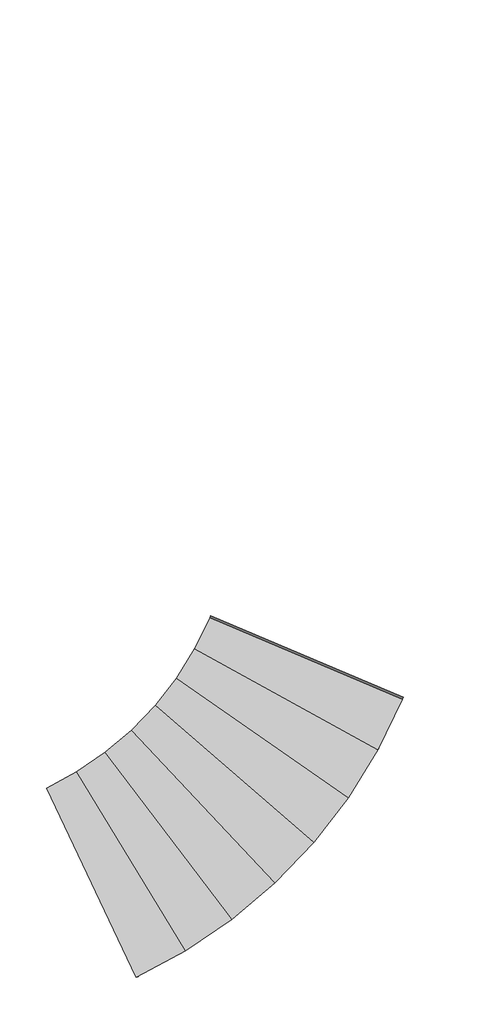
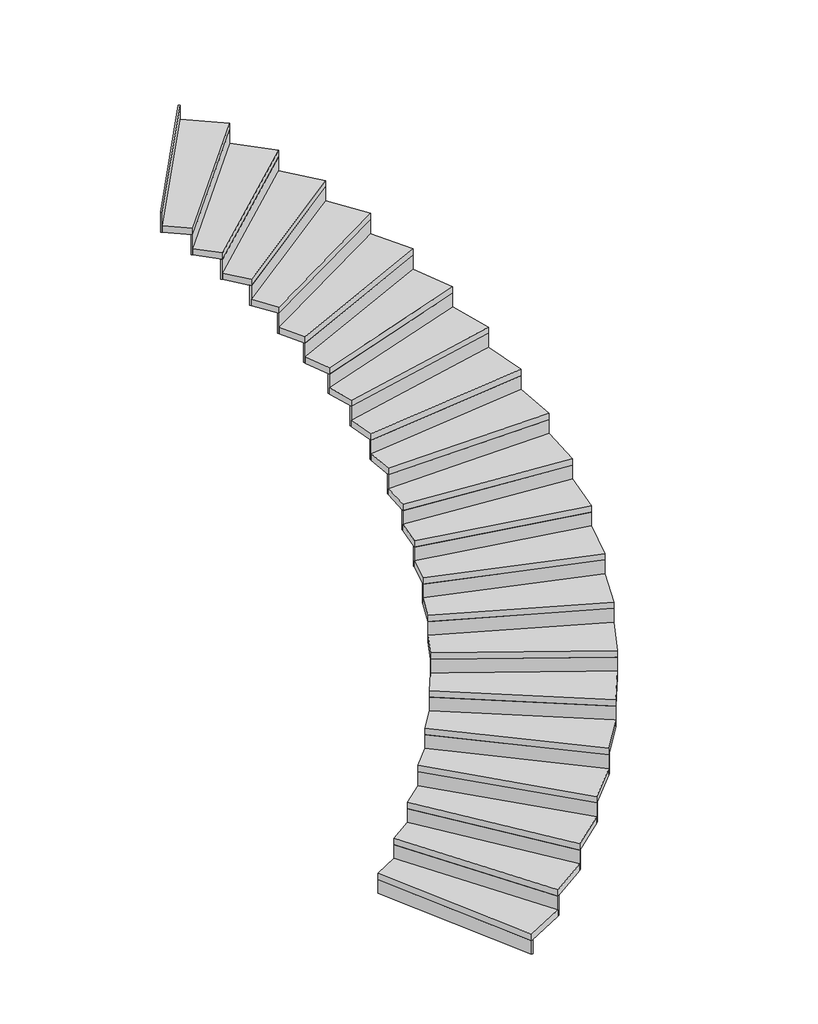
# One storey, incomplete: 1 stair flight.
"""IFC4 building model written with IfcOpenShell, lengths in millimetres."""

import ifcopenshell
import ifcopenshell.guid

model = None  # the IFC model being written
_history = None  # IfcOwnerHistory: only IFC2X3 demands one
_inside = {}  # id of a spatial element -> (the spatial element, [elements in it])
_under = {}  # id of a project, library or spatial element -> (it, [spatial elements below it])
_declared = {}  # id of a project -> (the project, [libraries it declares])
_typed = {}  # id of a type object -> (the type object, [elements of that type])
_made_of = {}  # id of a material, layer set ... -> (it, [elements and type objects made of it])


def new_model(schema):
    """Start an empty IFC model of exactly this schema.

    Asked for "IFC4X3", IfcOpenShell would pick the latest addendum, in which some entities
    have other attributes; the version numbers below select the first issue.
    IFC2X3 requires an IfcOwnerHistory on every rooted entity: one is made here for all.
    """
    global model, _history
    if schema == "IFC4X3":
        model = ifcopenshell.file(schema_version=(4, 3, 0, 0))
    else:
        model = ifcopenshell.file(schema=schema)
    _inside.clear()
    _under.clear()
    _declared.clear()
    _typed.clear()
    _made_of.clear()
    _history = None
    if model.schema == "IFC2X3":
        org = make("IfcOrganization", Name="unknown")
        user = make(
            "IfcPersonAndOrganization",
            ThePerson=make("IfcPerson", FamilyName="unknown"),
            TheOrganization=org,
        )
        app = make(
            "IfcApplication",
            ApplicationDeveloper=org,
            Version="unknown",
            ApplicationFullName="unknown",
            ApplicationIdentifier="unknown",
        )
        _history = make(
            "IfcOwnerHistory",
            OwningUser=user,
            OwningApplication=app,
            ChangeAction="ADDED",
            CreationDate=0,
        )
    return model


def make(cls, **values):
    """One entity of the class cls with the attributes given. An attribute that is None is left unset."""
    return model.create_entity(
        cls, **{name: value for name, value in values.items() if value is not None}
    )


def rooted(cls, **values):
    """An entity with a GlobalId (a new one), such as an element, a storey or a relation."""
    return make(cls, GlobalId=ifcopenshell.guid.new(), OwnerHistory=_history, **values)


def si_unit(unit_type, name, prefix=None):
    """IfcSIUnit, for example si_unit("LENGTHUNIT", "METRE", prefix="MILLI")."""
    return make("IfcSIUnit", UnitType=unit_type, Prefix=prefix, Name=name)


def assignment(units):
    """IfcUnitAssignment: the units of a project."""
    return None if units is None else make("IfcUnitAssignment", Units=units)


def point(xyz):
    """IfcCartesianPoint."""
    return None if xyz is None else make("IfcCartesianPoint", Coordinates=xyz)


def direction(xyz):
    """IfcDirection."""
    return None if xyz is None else make("IfcDirection", DirectionRatios=xyz)


def frame(location, z_axis=None, x_axis=None):
    """IfcAxis2Placement3D, a coordinate frame: its origin and axes. An axis left out is left unset."""
    return make(
        "IfcAxis2Placement3D",
        Location=point(location),
        Axis=direction(z_axis),
        RefDirection=direction(x_axis),
    )


def frame_2d(location, x_axis=None):
    """IfcAxis2Placement2D, a coordinate frame in the plane: its origin and x axis."""
    return make(
        "IfcAxis2Placement2D", Location=point(location), RefDirection=direction(x_axis)
    )


def origin():
    """The frame at (0, 0, 0) with its axes left unset."""
    return frame((0.0, 0.0, 0.0))


def origin_with_axes():
    """The frame at (0, 0, 0) with the z axis (0, 0, 1) and the x axis (1, 0, 0) written out."""
    return frame((0.0, 0.0, 0.0), z_axis=(0.0, 0.0, 1.0), x_axis=(1.0, 0.0, 0.0))


def place(relative_to, where):
    """IfcLocalPlacement: puts the frame where relative to a parent placement (None: the world)."""
    return make(
        "IfcLocalPlacement", PlacementRelTo=relative_to, RelativePlacement=where
    )


def context(
    kind, dimensions, precision=None, world=None, true_north=None, identifier=None
):
    """IfcGeometricRepresentationContext, for example the 3D "Model" context."""
    return make(
        "IfcGeometricRepresentationContext",
        ContextIdentifier=identifier,
        ContextType=kind,
        CoordinateSpaceDimension=dimensions,
        Precision=precision,
        WorldCoordinateSystem=world,
        TrueNorth=true_north,
    )


def project(units=None, contexts=None):
    """IfcProject with its units and contexts."""
    return rooted(
        "IfcProject",
        Name="project",
        RepresentationContexts=contexts,
        UnitsInContext=assignment(units),
    )


def spatial(cls, under=None, at=None, **own):
    """A site, building, storey or space (cls), placed at a placement, below another one or the project."""
    s = rooted(cls, ObjectPlacement=at, **own)
    if under is not None:
        _under.setdefault(under.id(), (under, []))[1].append(s)
    return s


def polyline(points):
    """IfcPolyline through the points."""
    return make("IfcPolyline", Points=[point(p) for p in points])


def circle_curve(where, radius):
    """IfcCircle in the frame where."""
    return make("IfcCircle", Position=where, Radius=radius)


def trimmed(basis, trim1, trim2, sense, master):
    """IfcTrimmedCurve: the piece of a basis curve between two trims."""
    return make(
        "IfcTrimmedCurve",
        BasisCurve=basis,
        Trim1=trim1,
        Trim2=trim2,
        SenseAgreement=sense,
        MasterRepresentation=master,
    )


def segment(curve, same_sense, transition):
    """IfcCompositeCurveSegment."""
    return make(
        "IfcCompositeCurveSegment",
        Transition=transition,
        SameSense=same_sense,
        ParentCurve=curve,
    )


def composite_curve(segments, self_intersect=None):
    """IfcCompositeCurve: segments joined end to end."""
    return make("IfcCompositeCurve", Segments=segments, SelfIntersect=self_intersect)


def outline(outer, holes=None, kind="AREA"):
    """IfcArbitraryClosedProfileDef: a profile drawn as a closed curve; with holes, ...WithVoids."""
    if holes is None:
        return make("IfcArbitraryClosedProfileDef", ProfileType=kind, OuterCurve=outer)
    return make(
        "IfcArbitraryProfileDefWithVoids",
        ProfileType=kind,
        OuterCurve=outer,
        InnerCurves=holes,
    )


def extrude(swept, where, along, depth):
    """IfcExtrudedAreaSolid: the profile swept, set in the frame where, extruded along a direction by depth."""
    return make(
        "IfcExtrudedAreaSolid",
        SweptArea=swept,
        Position=where,
        ExtrudedDirection=direction(along),
        Depth=depth,
    )


def shape(context_of_items, identifier, shape_type, items):
    """IfcShapeRepresentation: the items that make up one representation, for example the "Body"."""
    return make(
        "IfcShapeRepresentation",
        ContextOfItems=context_of_items,
        RepresentationIdentifier=identifier,
        RepresentationType=shape_type,
        Items=items,
    )


def source(mapping_origin, context_of_items, identifier, shape_type, items):
    """IfcRepresentationMap: a shape defined once, which mapped items show again and again."""
    return make(
        "IfcRepresentationMap",
        MappingOrigin=mapping_origin,
        MappedRepresentation=shape(context_of_items, identifier, shape_type, items),
    )


def transform(
    local_origin,
    x_axis=None,
    y_axis=None,
    z_axis=None,
    scale=None,
    scale2=None,
    scale3=None,
    uniform=True,
):
    """IfcCartesianTransformationOperator3D, or its non-uniform kind. x_axis, y_axis, z_axis: its Axis1, 2, 3."""
    if uniform:
        return make(
            "IfcCartesianTransformationOperator3D",
            Axis1=direction(x_axis),
            Axis2=direction(y_axis),
            LocalOrigin=point(local_origin),
            Scale=scale,
            Axis3=direction(z_axis),
        )
    return make(
        "IfcCartesianTransformationOperator3DnonUniform",
        Axis1=direction(x_axis),
        Axis2=direction(y_axis),
        LocalOrigin=point(local_origin),
        Scale=scale,
        Axis3=direction(z_axis),
        Scale2=scale2,
        Scale3=scale3,
    )


def mapped(mapping_source, mapping_target):
    """IfcMappedItem: shows the shape of a source again, moved by a transform."""
    return make(
        "IfcMappedItem", MappingSource=mapping_source, MappingTarget=mapping_target
    )


def made_of(thing, what):
    """Note that an element or type object is made of a material, layer set ...; save() writes the relation."""
    if what is not None:
        _made_of.setdefault(what.id(), (what, []))[1].append(thing)
    return thing


def element(
    cls,
    number,
    at=None,
    inside=None,
    cuts=None,
    type_object=None,
    material=None,
    context=None,
    identifier="Body",
    shape_type=None,
    held_by="IfcProductDefinitionShape",
    body=None,
    shapes=None,
    **own,
):
    """One element of the class cls, such as IfcWall. Its Tag is "e" and its number.

    at: its placement. inside: the storey or other place that contains it. cuts: it is an
    opening in that element (IfcRelVoidsElement). A single representation is given by context,
    identifier, shape_type and body (its items); several are given by shapes. held_by: the class
    of the entity that holds the representations. save() writes the other relations.
    """
    e = rooted(cls, Tag="e%d" % number, ObjectPlacement=at, **own)
    if body is not None:
        shapes = [shape(context, identifier, shape_type, body)]
    if shapes is not None:
        e.Representation = make(held_by, Representations=shapes)
    if inside is not None:
        _inside.setdefault(inside.id(), (inside, []))[1].append(e)
    if cuts is not None:
        rooted(
            "IfcRelVoidsElement", RelatingBuildingElement=cuts, RelatedOpeningElement=e
        )
    if type_object is not None:
        _typed.setdefault(type_object.id(), (type_object, []))[1].append(e)
    return made_of(e, material)


def aggregate(whole, parts):
    """IfcRelAggregates: a whole, such as a stair, and the parts it consists of."""
    return rooted("IfcRelAggregates", RelatingObject=whole, RelatedObjects=parts)


def save(model, path):
    """Write the relations noted so far, then the file.

    IfcRelAggregates (storeys below a building ...), IfcRelContainedInSpatialStructure (elements
    in a storey), IfcRelDefinesByType, IfcRelAssociatesMaterial and IfcRelDeclares: one each for
    every whole, place, type object, material and project.
    """
    for whole, parts in _under.values():
        aggregate(whole, parts)
    for where, things in _inside.values():
        rooted(
            "IfcRelContainedInSpatialStructure",
            RelatedElements=things,
            RelatingStructure=where,
        )
    for kind, things in _typed.values():
        rooted("IfcRelDefinesByType", RelatedObjects=things, RelatingType=kind)
    for what, things in _made_of.values():
        rooted("IfcRelAssociatesMaterial", RelatedObjects=things, RelatingMaterial=what)
    for by, libraries in _declared.values():
        rooted("IfcRelDeclares", RelatingContext=by, RelatedDefinitions=libraries)
    model.write(path)


def stair_flight_b16c3806(model_context):
    return source(origin(), model_context, "Body", "SweptSolid", [
        extrude(outline(composite_curve([segment(trimmed(circle_curve(frame_2d((-5895.4859105, 485.3586995)), 3100.0), [point((-4558.4251981, -2311.4731959))], [point((-4569.7136158, -2316.8418327))], False, "CARTESIAN"), True, "CONTINUOUS"), segment(polyline([(-4569.7136158, -2316.8418327), (-5082.9157944, -1232.1190461)]), True, "CONTINUOUS"), segment(trimmed(circle_curve(frame_2d((-5895.4859105, 485.3586995)), 1900.0), [point((-5082.9157944, -1232.1190461))], [point((-5071.6341839, -1226.7360212))], True, "CARTESIAN"), True, "CONTINUOUS"), segment(polyline([(-5071.6341839, -1226.7360212), (-4558.4251981, -2311.4731959)]), True, "CONTINUOUS")], self_intersect=False)), origin_with_axes(), (0.0, 0.0, 1.0), 107.1428571),
        extrude(outline(composite_curve([segment(polyline([(-4908.9341426, -1138.4379655), (-4285.8488155, -2163.9937539)]), True, "CONTINUOUS"), segment(trimmed(circle_curve(frame_2d((-5895.4859105, 485.3586995)), 3100.0), [point((-4285.8488155, -2163.9937539))], [point((-4569.7136158, -2316.8418327))], False, "CARTESIAN"), True, "CONTINUOUS"), segment(polyline([(-4569.7136158, -2316.8418327), (-5082.9157944, -1232.1190461)]), True, "CONTINUOUS"), segment(trimmed(circle_curve(frame_2d((-5895.4859105, 485.3586995)), 1900.0), [point((-5082.9157944, -1232.1190461))], [point((-4908.9341426, -1138.4379655))], True, "CARTESIAN"), True, "CONTINUOUS")], self_intersect=False)), frame((0.0, 0.0, 107.1428571), z_axis=(0.0, 0.0, 1.0), x_axis=(1.0, 0.0, 0.0)), (0.0, 0.0, 1.0), 50.0),
        extrude(outline(composite_curve([segment(trimmed(circle_curve(frame_2d((-5895.4859105, 485.3586995)), 3100.0), [point((-4275.1790284, -2157.4817436))], [point((-4285.8488155, -2163.9937539))], False, "CARTESIAN"), True, "CONTINUOUS"), segment(polyline([(-4285.8488155, -2163.9937539), (-4908.9341426, -1138.4379655)]), True, "CONTINUOUS"), segment(trimmed(circle_curve(frame_2d((-5895.4859105, 485.3586995)), 1900.0), [point((-4908.9341426, -1138.4379655))], [point((-4898.2726203, -1131.912352))], True, "CARTESIAN"), True, "CONTINUOUS"), segment(polyline([(-4898.2726203, -1131.912352), (-4275.1790284, -2157.4817436)]), True, "CONTINUOUS")], self_intersect=False)), frame((0.0, 0.0, 107.1428571), z_axis=(0.0, 0.0, 1.0), x_axis=(1.0, 0.0, 0.0)), (0.0, 0.0, 1.0), 157.1428571),
        extrude(outline(composite_curve([segment(polyline([(-4745.6230348, -1027.1939003), (-4019.3938501, -1982.490279)]), True, "CONTINUOUS"), segment(trimmed(circle_curve(frame_2d((-5895.4859105, 485.3586995)), 3100.0), [point((-4019.3938501, -1982.490279))], [point((-4285.8488155, -2163.9937539))], False, "CARTESIAN"), True, "CONTINUOUS"), segment(polyline([(-4285.8488155, -2163.9937539), (-4908.9341426, -1138.4379655)]), True, "CONTINUOUS"), segment(trimmed(circle_curve(frame_2d((-5895.4859105, 485.3586995)), 1900.0), [point((-4908.9341426, -1138.4379655))], [point((-4745.6230348, -1027.1939003))], True, "CARTESIAN"), True, "CONTINUOUS")], self_intersect=False)), frame((0.0, 0.0, 264.2857143), z_axis=(0.0, 0.0, 1.0), x_axis=(1.0, 0.0, 0.0)), (0.0, 0.0, 1.0), 50.0),
        extrude(outline(composite_curve([segment(trimmed(circle_curve(frame_2d((-5895.4859105, 485.3586995)), 3100.0), [point((-4009.458098, -1974.9053291))], [point((-4019.3938501, -1982.490279))], False, "CARTESIAN"), True, "CONTINUOUS"), segment(polyline([(-4019.3938501, -1982.490279), (-4745.6230348, -1027.1939003)]), True, "CONTINUOUS"), segment(trimmed(circle_curve(frame_2d((-5895.4859105, 485.3586995)), 1900.0), [point((-4745.6230348, -1027.1939003))], [point((-4735.6969156, -1019.596279))], True, "CARTESIAN"), True, "CONTINUOUS"), segment(polyline([(-4735.6969156, -1019.596279), (-4009.458098, -1974.9053291)]), True, "CONTINUOUS")], self_intersect=False)), frame((0.0, 0.0, 264.2857143), z_axis=(0.0, 0.0, 1.0), x_axis=(1.0, 0.0, 0.0)), (0.0, 0.0, 1.0), 157.1428571),
        extrude(outline(composite_curve([segment(polyline([(-4594.7488438, -899.5900661), (-3773.2306964, -1774.2945496)]), True, "CONTINUOUS"), segment(trimmed(circle_curve(frame_2d((-5895.4859105, 485.3586995)), 3100.0), [point((-3773.2306964, -1774.2945496))], [point((-4019.3938501, -1982.490279))], False, "CARTESIAN"), True, "CONTINUOUS"), segment(polyline([(-4019.3938501, -1982.490279), (-4745.6230348, -1027.1939003)]), True, "CONTINUOUS"), segment(trimmed(circle_curve(frame_2d((-5895.4859105, 485.3586995)), 1900.0), [point((-4745.6230348, -1027.1939003))], [point((-4594.7488438, -899.5900661))], True, "CARTESIAN"), True, "CONTINUOUS")], self_intersect=False)), frame((0.0, 0.0, 421.4285714), z_axis=(0.0, 0.0, 1.0), x_axis=(1.0, 0.0, 0.0)), (0.0, 0.0, 1.0), 50.0),
        extrude(outline(composite_curve([segment(trimmed(circle_curve(frame_2d((-5895.4859105, 485.3586995)), 3100.0), [point((-3764.1364444, -1765.7186989))], [point((-3773.2306964, -1774.2945496))], False, "CARTESIAN"), True, "CONTINUOUS"), segment(polyline([(-3773.2306964, -1774.2945496), (-4594.7488438, -899.5900661)]), True, "CONTINUOUS"), segment(trimmed(circle_curve(frame_2d((-5895.4859105, 485.3586995)), 1900.0), [point((-4594.7488438, -899.5900661))], [point((-4585.6654887, -891.002613))], True, "CARTESIAN"), True, "CONTINUOUS"), segment(polyline([(-4585.6654887, -891.002613), (-3764.1364444, -1765.7186989)]), True, "CONTINUOUS")], self_intersect=False)), frame((0.0, 0.0, 421.4285714), z_axis=(0.0, 0.0, 1.0), x_axis=(1.0, 0.0, 0.0)), (0.0, 0.0, 1.0), 157.1428571),
        extrude(outline(composite_curve([segment(polyline([(-4457.9434249, -757.0066261), (-3550.0218551, -1541.6584106)]), True, "CONTINUOUS"), segment(trimmed(circle_curve(frame_2d((-5895.4859105, 485.3586995)), 3100.0), [point((-3550.0218551, -1541.6584106))], [point((-3773.2306964, -1774.2945496))], False, "CARTESIAN"), True, "CONTINUOUS"), segment(polyline([(-3773.2306964, -1774.2945496), (-4594.7488438, -899.5900661)]), True, "CONTINUOUS"), segment(trimmed(circle_curve(frame_2d((-5895.4859105, 485.3586995)), 1900.0), [point((-4594.7488438, -899.5900661))], [point((-4457.9434249, -757.0066261))], True, "CARTESIAN"), True, "CONTINUOUS")], self_intersect=False)), frame((0.0, 0.0, 578.5714286), z_axis=(0.0, 0.0, 1.0), x_axis=(1.0, 0.0, 0.0)), (0.0, 0.0, 1.0), 50.0),
        extrude(outline(composite_curve([segment(trimmed(circle_curve(frame_2d((-5895.4859105, 485.3586995)), 3100.0), [point((-3541.8674666, -1532.1844155))], [point((-3550.0218551, -1541.6584106))], False, "CARTESIAN"), True, "CONTINUOUS"), segment(polyline([(-3550.0218551, -1541.6584106), (-4457.9434249, -757.0066261)]), True, "CONTINUOUS"), segment(trimmed(circle_curve(frame_2d((-5895.4859105, 485.3586995)), 1900.0), [point((-4457.9434249, -757.0066261))], [point((-4449.8010794, -747.5222231))], True, "CARTESIAN"), True, "CONTINUOUS"), segment(polyline([(-4449.8010794, -747.5222231), (-3541.8674666, -1532.1844155)]), True, "CONTINUOUS")], self_intersect=False)), frame((0.0, 0.0, 578.5714286), z_axis=(0.0, 0.0, 1.0), x_axis=(1.0, 0.0, 0.0)), (0.0, 0.0, 1.0), 157.1428571),
        extrude(outline(composite_curve([segment(polyline([(-4336.6864656, -600.9857627), (-3352.181553, -1287.0980546)]), True, "CONTINUOUS"), segment(trimmed(circle_curve(frame_2d((-5895.4859105, 485.3586995)), 3100.0), [point((-3352.181553, -1287.0980546))], [point((-3550.0218551, -1541.6584106))], False, "CARTESIAN"), True, "CONTINUOUS"), segment(polyline([(-3550.0218551, -1541.6584106), (-4457.9434249, -757.0066261)]), True, "CONTINUOUS"), segment(trimmed(circle_curve(frame_2d((-5895.4859105, 485.3586995)), 1900.0), [point((-4457.9434249, -757.0066261))], [point((-4336.6864656, -600.9857627))], True, "CARTESIAN"), True, "CONTINUOUS")], self_intersect=False)), frame((0.0, 0.0, 735.7142857), z_axis=(0.0, 0.0, 1.0), x_axis=(1.0, 0.0, 0.0)), (0.0, 0.0, 1.0), 50.0),
        extrude(outline(composite_curve([segment(trimmed(circle_curve(frame_2d((-5895.4859105, 485.3586995)), 3100.0), [point((-3345.055226, -1276.8283857))], [point((-3352.181553, -1287.0980546))], False, "CARTESIAN"), True, "CONTINUOUS"), segment(polyline([(-3352.181553, -1287.0980546), (-4336.6864656, -600.9857627)]), True, "CONTINUOUS"), segment(trimmed(circle_curve(frame_2d((-5895.4859105, 485.3586995)), 1900.0), [point((-4336.6864656, -600.9857627))], [point((-4329.5731973, -590.7069931))], True, "CARTESIAN"), True, "CONTINUOUS"), segment(polyline([(-4329.5731973, -590.7069931), (-3345.055226, -1276.8283857)]), True, "CONTINUOUS")], self_intersect=False)), frame((0.0, 0.0, 735.7142857), z_axis=(0.0, 0.0, 1.0), x_axis=(1.0, 0.0, 0.0)), (0.0, 0.0, 1.0), 157.1428571),
        extrude(outline(composite_curve([segment(polyline([(-4232.2894811, -433.2149976), (-3181.8496308, -1013.3668063)]), True, "CONTINUOUS"), segment(trimmed(circle_curve(frame_2d((-5895.4859105, 485.3586995)), 3100.0), [point((-3181.8496308, -1013.3668063))], [point((-3352.181553, -1287.0980546))], False, "CARTESIAN"), True, "CONTINUOUS"), segment(polyline([(-3352.181553, -1287.0980546), (-4336.6864656, -600.9857627)]), True, "CONTINUOUS"), segment(trimmed(circle_curve(frame_2d((-5895.4859105, 485.3586995)), 1900.0), [point((-4336.6864656, -600.9857627))], [point((-4232.2894811, -433.2149976))], True, "CARTESIAN"), True, "CONTINUOUS")], self_intersect=False)), frame((0.0, 0.0, 892.8571429), z_axis=(0.0, 0.0, 1.0), x_axis=(1.0, 0.0, 0.0)), (0.0, 0.0, 1.0), 50.0),
        extrude(outline(composite_curve([segment(trimmed(circle_curve(frame_2d((-5895.4859105, 485.3586995)), 3100.0), [point((-3175.8284436, -1002.4125405))], [point((-3181.8496308, -1013.3668063))], False, "CARTESIAN"), True, "CONTINUOUS"), segment(polyline([(-3181.8496308, -1013.3668063), (-4232.2894811, -433.2149976)]), True, "CONTINUOUS"), segment(trimmed(circle_curve(frame_2d((-5895.4859105, 485.3586995)), 1900.0), [point((-4232.2894811, -433.2149976))], [point((-4226.2822271, -422.2530365))], True, "CARTESIAN"), True, "CONTINUOUS"), segment(polyline([(-4226.2822271, -422.2530365), (-3175.8284436, -1002.4125405)]), True, "CONTINUOUS")], self_intersect=False)), frame((0.0, 0.0, 892.8571429), z_axis=(0.0, 0.0, 1.0), x_axis=(1.0, 0.0, 0.0)), (0.0, 0.0, 1.0), 157.1428571),
        extrude(outline(composite_curve([segment(polyline([(-4145.8816291, -255.5089394), (-3040.8683987, -723.4253429)]), True, "CONTINUOUS"), segment(trimmed(circle_curve(frame_2d((-5895.4859105, 485.3586995)), 3100.0), [point((-3040.8683987, -723.4253429))], [point((-3181.8496308, -1013.3668063))], False, "CARTESIAN"), True, "CONTINUOUS"), segment(polyline([(-3181.8496308, -1013.3668063), (-4232.2894811, -433.2149976)]), True, "CONTINUOUS"), segment(trimmed(circle_curve(frame_2d((-5895.4859105, 485.3586995)), 1900.0), [point((-4232.2894811, -433.2149976))], [point((-4145.8816291, -255.5089394))], True, "CARTESIAN"), True, "CONTINUOUS")], self_intersect=False)), frame((0.0, 0.0, 1050.0), z_axis=(0.0, 0.0, 1.0), x_axis=(1.0, 0.0, 0.0)), (0.0, 0.0, 1.0), 50.0),
        extrude(outline(composite_curve([segment(trimmed(circle_curve(frame_2d((-5895.4859105, 485.3586995)), 3100.0), [point((-3036.0174764, -711.9049615))], [point((-3040.8683987, -723.4253429))], False, "CARTESIAN"), True, "CONTINUOUS"), segment(polyline([(-3040.8683987, -723.4253429), (-4145.8816291, -255.5089394)]), True, "CONTINUOUS"), segment(trimmed(circle_curve(frame_2d((-5895.4859105, 485.3586995)), 1900.0), [point((-4145.8816291, -255.5089394))], [point((-4141.045364, -243.9823514))], True, "CARTESIAN"), True, "CONTINUOUS"), segment(polyline([(-4141.045364, -243.9823514), (-3036.0174764, -711.9049615)]), True, "CONTINUOUS")], self_intersect=False)), frame((0.0, 0.0, 1050.0), z_axis=(0.0, 0.0, 1.0), x_axis=(1.0, 0.0, 0.0)), (0.0, 0.0, 1.0), 157.1428571),
        extrude(outline(composite_curve([segment(polyline([(-4078.397497, -69.7896568), (-2930.7627096, -420.4096713)]), True, "CONTINUOUS"), segment(trimmed(circle_curve(frame_2d((-5895.4859105, 485.3586995)), 3100.0), [point((-2930.7627096, -420.4096713))], [point((-3040.8683987, -723.4253429))], False, "CARTESIAN"), True, "CONTINUOUS"), segment(polyline([(-3040.8683987, -723.4253429), (-4145.8816291, -255.5089394)]), True, "CONTINUOUS"), segment(trimmed(circle_curve(frame_2d((-5895.4859105, 485.3586995)), 1900.0), [point((-4145.8816291, -255.5089394))], [point((-4078.397497, -69.7896568))], True, "CARTESIAN"), True, "CONTINUOUS")], self_intersect=False)), frame((0.0, 0.0, 1207.1428571), z_axis=(0.0, 0.0, 1.0), x_axis=(1.0, 0.0, 0.0)), (0.0, 0.0, 1.0), 50.0),
        extrude(outline(composite_curve([segment(trimmed(circle_curve(frame_2d((-5895.4859105, 485.3586995)), 3100.0), [point((-2927.1345197, -408.4477788))], [point((-2930.7627096, -420.4096713))], False, "CARTESIAN"), True, "CONTINUOUS"), segment(polyline([(-2930.7627096, -420.4096713), (-4078.397497, -69.7896568)]), True, "CONTINUOUS"), segment(trimmed(circle_curve(frame_2d((-5895.4859105, 485.3586995)), 1900.0), [point((-4078.397497, -69.7896568))], [point((-4074.7845298, -57.8231135))], True, "CARTESIAN"), True, "CONTINUOUS"), segment(polyline([(-4074.7845298, -57.8231135), (-2927.1345197, -408.4477788)]), True, "CONTINUOUS")], self_intersect=False)), frame((0.0, 0.0, 1207.1428571), z_axis=(0.0, 0.0, 1.0), x_axis=(1.0, 0.0, 0.0)), (0.0, 0.0, 1.0), 157.1428571),
        extrude(outline(composite_curve([segment(polyline([(-4030.5669933, 121.9341104), (-2852.7234666, -107.5972091)]), True, "CONTINUOUS"), segment(trimmed(circle_curve(frame_2d((-5895.4859105, 485.3586995)), 3100.0), [point((-2852.7234666, -107.5972091))], [point((-2930.7627096, -420.4096713))], False, "CARTESIAN"), True, "CONTINUOUS"), segment(polyline([(-2930.7627096, -420.4096713), (-4078.397497, -69.7896568)]), True, "CONTINUOUS"), segment(trimmed(circle_curve(frame_2d((-5895.4859105, 485.3586995)), 1900.0), [point((-4078.397497, -69.7896568))], [point((-4030.5669933, 121.9341104))], True, "CARTESIAN"), True, "CONTINUOUS")], self_intersect=False)), frame((0.0, 0.0, 1364.2857143), z_axis=(0.0, 0.0, 1.0), x_axis=(1.0, 0.0, 0.0)), (0.0, 0.0, 1.0), 50.0),
        extrude(outline(composite_curve([segment(trimmed(circle_curve(frame_2d((-5895.4859105, 485.3586995)), 3100.0), [point((-2850.3572517, -95.3231852))], [point((-2852.7234666, -107.5972091))], False, "CARTESIAN"), True, "CONTINUOUS"), segment(polyline([(-2852.7234666, -107.5972091), (-4030.5669933, 121.9341104)]), True, "CONTINUOUS"), segment(trimmed(circle_curve(frame_2d((-5895.4859105, 485.3586995)), 1900.0), [point((-4030.5669933, 121.9341104))], [point((-4028.2164017, 134.2111788))], True, "CARTESIAN"), True, "CONTINUOUS"), segment(polyline([(-4028.2164017, 134.2111788), (-2850.3572517, -95.3231852)]), True, "CONTINUOUS")], self_intersect=False)), frame((0.0, 0.0, 1364.2857143), z_axis=(0.0, 0.0, 1.0), x_axis=(1.0, 0.0, 0.0)), (0.0, 0.0, 1.0), 157.1428571),
        extrude(outline(composite_curve([segment(polyline([(-4002.9074525, 317.5886779), (-2807.5947422, 211.6286643)]), True, "CONTINUOUS"), segment(trimmed(circle_curve(frame_2d((-5895.4859105, 485.3586995)), 3100.0), [point((-2807.5947422, 211.6286643))], [point((-2852.7234666, -107.5972091))], False, "CARTESIAN"), True, "CONTINUOUS"), segment(polyline([(-2852.7234666, -107.5972091), (-4030.5669933, 121.9341104)]), True, "CONTINUOUS"), segment(trimmed(circle_curve(frame_2d((-5895.4859105, 485.3586995)), 1900.0), [point((-4030.5669933, 121.9341104))], [point((-4002.9074525, 317.5886779))], True, "CARTESIAN"), True, "CONTINUOUS")], self_intersect=False)), frame((0.0, 0.0, 1521.4285714), z_axis=(0.0, 0.0, 1.0), x_axis=(1.0, 0.0, 0.0)), (0.0, 0.0, 1.0), 50.0),
        extrude(outline(composite_curve([segment(trimmed(circle_curve(frame_2d((-5895.4859105, 485.3586995)), 3100.0), [point((-2806.5160953, 224.0820637))], [point((-2807.5947422, 211.6286643))], False, "CARTESIAN"), True, "CONTINUOUS"), segment(polyline([(-2807.5947422, 211.6286643), (-4002.9074525, 317.5886779)]), True, "CONTINUOUS"), segment(trimmed(circle_curve(frame_2d((-5895.4859105, 485.3586995)), 1900.0), [point((-4002.9074525, 317.5886779))], [point((-4001.8446606, 330.0434828))], True, "CARTESIAN"), True, "CONTINUOUS"), segment(polyline([(-4001.8446606, 330.0434828), (-2806.5160953, 224.0820637)]), True, "CONTINUOUS")], self_intersect=False)), frame((0.0, 0.0, 1521.4285714), z_axis=(0.0, 0.0, 1.0), x_axis=(1.0, 0.0, 0.0)), (0.0, 0.0, 1.0), 157.1428571),
        extrude(outline(composite_curve([segment(polyline([(-3995.7180403, 515.057846), (-2795.8646486, 533.8152018)]), True, "CONTINUOUS"), segment(trimmed(circle_curve(frame_2d((-5895.4859105, 485.3586995)), 3100.0), [point((-2795.8646486, 533.8152018))], [point((-2807.5947422, 211.6286643))], False, "CARTESIAN"), True, "CONTINUOUS"), segment(polyline([(-2807.5947422, 211.6286643), (-4002.9074525, 317.5886779)]), True, "CONTINUOUS"), segment(trimmed(circle_curve(frame_2d((-5895.4859105, 485.3586995)), 1900.0), [point((-4002.9074525, 317.5886779))], [point((-3995.7180403, 515.057846))], True, "CARTESIAN"), True, "CONTINUOUS")], self_intersect=False)), frame((0.0, 0.0, 1678.5714286), z_axis=(0.0, 0.0, 1.0), x_axis=(1.0, 0.0, 0.0)), (0.0, 0.0, 1.0), 50.0),
        extrude(outline(composite_curve([segment(trimmed(circle_curve(frame_2d((-5895.4859105, 485.3586995)), 3100.0), [point((-2796.0852364, 546.3132807))], [point((-2795.8646486, 533.8152018))], False, "CARTESIAN"), True, "CONTINUOUS"), segment(polyline([(-2795.8646486, 533.8152018), (-3995.7180403, 515.057846)]), True, "CONTINUOUS"), segment(trimmed(circle_curve(frame_2d((-5895.4859105, 485.3586995)), 1900.0), [point((-3995.7180403, 515.057846))], [point((-3995.9545433, 527.5556761))], True, "CARTESIAN"), True, "CONTINUOUS"), segment(polyline([(-3995.9545433, 527.5556761), (-2796.0852364, 546.3132807)]), True, "CONTINUOUS")], self_intersect=False)), frame((0.0, 0.0, 1678.5714286), z_axis=(0.0, 0.0, 1.0), x_axis=(1.0, 0.0, 0.0)), (0.0, 0.0, 1.0), 157.1428571),
        extrude(outline(composite_curve([segment(polyline([(-4009.0765175, 712.2057882), (-2817.6600587, 855.4776337)]), True, "CONTINUOUS"), segment(trimmed(circle_curve(frame_2d((-5895.4859105, 485.3586995)), 3100.0), [point((-2817.6600587, 855.4776337))], [point((-2795.8646486, 533.8152018))], False, "CARTESIAN"), True, "CONTINUOUS"), segment(polyline([(-2795.8646486, 533.8152018), (-3995.7180403, 515.057846)]), True, "CONTINUOUS"), segment(trimmed(circle_curve(frame_2d((-5895.4859105, 485.3586995)), 1900.0), [point((-3995.7180403, 515.057846))], [point((-4009.0765175, 712.2057882))], True, "CARTESIAN"), True, "CONTINUOUS")], self_intersect=False)), frame((0.0, 0.0, 1835.7142857), z_axis=(0.0, 0.0, 1.0), x_axis=(1.0, 0.0, 0.0)), (0.0, 0.0, 1.0), 50.0),
        extrude(outline(composite_curve([segment(trimmed(circle_curve(frame_2d((-5895.4859105, 485.3586995)), 3100.0), [point((-2819.1774952, 867.8852129))], [point((-2817.6600587, 855.4776337))], False, "CARTESIAN"), True, "CONTINUOUS"), segment(polyline([(-2817.6600587, 855.4776337), (-4009.0765175, 712.2057882)]), True, "CONTINUOUS"), segment(trimmed(circle_curve(frame_2d((-5895.4859105, 485.3586995)), 1900.0), [point((-4009.0765175, 712.2057882))], [point((-4010.6097573, 724.611467))], True, "CARTESIAN"), True, "CONTINUOUS"), segment(polyline([(-4010.6097573, 724.611467), (-2819.1774952, 867.8852129)]), True, "CONTINUOUS")], self_intersect=False)), frame((0.0, 0.0, 1835.7142857), z_axis=(0.0, 0.0, 1.0), x_axis=(1.0, 0.0, 0.0)), (0.0, 0.0, 1.0), 157.1428571),
        extrude(outline(composite_curve([segment(polyline([(-4042.8383986, 906.9001522), (-2872.7452331, 1173.1368592)]), True, "CONTINUOUS"), segment(trimmed(circle_curve(frame_2d((-5895.4859105, 485.3586995)), 3100.0), [point((-2872.7452331, 1173.1368592))], [point((-2817.6600587, 855.4776337))], False, "CARTESIAN"), True, "CONTINUOUS"), segment(polyline([(-2817.6600587, 855.4776337), (-4009.0765175, 712.2057882)]), True, "CONTINUOUS"), segment(trimmed(circle_curve(frame_2d((-5895.4859105, 485.3586995)), 1900.0), [point((-4009.0765175, 712.2057882))], [point((-4042.8383986, 906.9001522))], True, "CARTESIAN"), True, "CONTINUOUS")], self_intersect=False)), frame((0.0, 0.0, 1992.8571429), z_axis=(0.0, 0.0, 1.0), x_axis=(1.0, 0.0, 0.0)), (0.0, 0.0, 1.0), 50.0),
        extrude(outline(composite_curve([segment(trimmed(circle_curve(frame_2d((-5895.4859105, 485.3586995)), 3100.0), [point((-2875.5431058, 1185.3197383))], [point((-2872.7452331, 1173.1368592))], False, "CARTESIAN"), True, "CONTINUOUS"), segment(polyline([(-2872.7452331, 1173.1368592), (-4042.8383986, 906.9001522)]), True, "CONTINUOUS"), segment(trimmed(circle_curve(frame_2d((-5895.4859105, 485.3586995)), 1900.0), [point((-4042.8383986, 906.9001522))], [point((-4045.6517917, 919.0794999))], True, "CARTESIAN"), True, "CONTINUOUS"), segment(polyline([(-4045.6517917, 919.0794999), (-2875.5431058, 1185.3197383)]), True, "CONTINUOUS")], self_intersect=False)), frame((0.0, 0.0, 1992.8571429), z_axis=(0.0, 0.0, 1.0), x_axis=(1.0, 0.0, 0.0)), (0.0, 0.0, 1.0), 157.1428571),
        extrude(outline(composite_curve([segment(polyline([(-4096.6385152, 1097.0351239), (-2960.5243707, 1483.3570761)]), True, "CONTINUOUS"), segment(trimmed(circle_curve(frame_2d((-5895.4859105, 485.3586995)), 3100.0), [point((-2960.5243707, 1483.3570761))], [point((-2872.7452331, 1173.1368592))], False, "CARTESIAN"), True, "CONTINUOUS"), segment(polyline([(-2872.7452331, 1173.1368592), (-4042.8383986, 906.9001522)]), True, "CONTINUOUS"), segment(trimmed(circle_curve(frame_2d((-5895.4859105, 485.3586995)), 1900.0), [point((-4042.8383986, 906.9001522))], [point((-4096.6385152, 1097.0351239))], True, "CARTESIAN"), True, "CONTINUOUS")], self_intersect=False)), frame((0.0, 0.0, 2150.0), z_axis=(0.0, 0.0, 1.0), x_axis=(1.0, 0.0, 0.0)), (0.0, 0.0, 1.0), 50.0),
        extrude(outline(composite_curve([segment(trimmed(circle_curve(frame_2d((-5895.4859105, 485.3586995)), 3100.0), [point((-2964.5724178, 1495.1834852))], [point((-2960.5243707, 1483.3570761))], False, "CARTESIAN"), True, "CONTINUOUS"), segment(polyline([(-2960.5243707, 1483.3570761), (-4096.6385152, 1097.0351239)]), True, "CONTINUOUS"), segment(trimmed(circle_curve(frame_2d((-5895.4859105, 485.3586995)), 1900.0), [point((-4096.6385152, 1097.0351239))], [point((-4100.701632, 1108.8564086))], True, "CARTESIAN"), True, "CONTINUOUS"), segment(polyline([(-4100.701632, 1108.8564086), (-2964.5724178, 1495.1834852)]), True, "CONTINUOUS")], self_intersect=False)), frame((0.0, 0.0, 2150.0), z_axis=(0.0, 0.0, 1.0), x_axis=(1.0, 0.0, 0.0)), (0.0, 0.0, 1.0), 157.1428571),
        extrude(outline(composite_curve([segment(polyline([(-4169.8949652, 1280.5542033), (-3080.0480524, 1782.7829426)]), True, "CONTINUOUS"), segment(trimmed(circle_curve(frame_2d((-5895.4859105, 485.3586995)), 3100.0), [point((-3080.0480524, 1782.7829426))], [point((-2960.5243707, 1483.3570761))], False, "CARTESIAN"), True, "CONTINUOUS"), segment(polyline([(-2960.5243707, 1483.3570761), (-4096.6385152, 1097.0351239)]), True, "CONTINUOUS"), segment(trimmed(circle_curve(frame_2d((-5895.4859105, 485.3586995)), 1900.0), [point((-4096.6385152, 1097.0351239))], [point((-4169.8949652, 1280.5542033))], True, "CARTESIAN"), True, "CONTINUOUS")], self_intersect=False)), frame((0.0, 0.0, 2307.1428571), z_axis=(0.0, 0.0, 1.0), x_axis=(1.0, 0.0, 0.0)), (0.0, 0.0, 1.0), 50.0),
        extrude(outline(composite_curve([segment(trimmed(circle_curve(frame_2d((-5895.4859105, 485.3586995)), 3100.0), [point((-3085.3024901, 1794.1249671))], [point((-3080.0480524, 1782.7829426))], False, "CARTESIAN"), True, "CONTINUOUS"), segment(polyline([(-3080.0480524, 1782.7829426), (-4169.8949652, 1280.5542033)]), True, "CONTINUOUS"), segment(trimmed(circle_curve(frame_2d((-5895.4859105, 485.3586995)), 1900.0), [point((-4169.8949652, 1280.5542033))], [point((-4175.163859, 1291.8895661))], True, "CARTESIAN"), True, "CONTINUOUS"), segment(polyline([(-4175.163859, 1291.8895661), (-3085.3024901, 1794.1249671)]), True, "CONTINUOUS")], self_intersect=False)), frame((0.0, 0.0, 2307.1428571), z_axis=(0.0, 0.0, 1.0), x_axis=(1.0, 0.0, 0.0)), (0.0, 0.0, 1.0), 157.1428571),
        extrude(outline(composite_curve([segment(polyline([(-4261.8154069, 1455.4724482), (-3230.0235099, 2068.1758685)]), True, "CONTINUOUS"), segment(trimmed(circle_curve(frame_2d((-5895.4859105, 485.3586995)), 3100.0), [point((-3230.0235099, 2068.1758685))], [point((-3080.0480524, 1782.7829426))], False, "CARTESIAN"), True, "CONTINUOUS"), segment(polyline([(-3080.0480524, 1782.7829426), (-4169.8949652, 1280.5542033)]), True, "CONTINUOUS"), segment(trimmed(circle_curve(frame_2d((-5895.4859105, 485.3586995)), 1900.0), [point((-4169.8949652, 1280.5542033))], [point((-4261.8154069, 1455.4724482))], True, "CARTESIAN"), True, "CONTINUOUS")], self_intersect=False)), frame((0.0, 0.0, 2464.2857143), z_axis=(0.0, 0.0, 1.0), x_axis=(1.0, 0.0, 0.0)), (0.0, 0.0, 1.0), 50.0),
        extrude(outline(composite_curve([segment(trimmed(circle_curve(frame_2d((-5895.4859105, 485.3586995)), 3100.0), [point((-3236.4275063, 2078.9108331))], [point((-3230.0235099, 2068.1758685))], False, "CARTESIAN"), True, "CONTINUOUS"), segment(polyline([(-3230.0235099, 2068.1758685), (-4261.8154069, 1455.4724482)]), True, "CONTINUOUS"), segment(trimmed(circle_curve(frame_2d((-5895.4859105, 485.3586995)), 1900.0), [point((-4261.8154069, 1455.4724482))], [point((-4268.2330893, 1466.1992858))], True, "CARTESIAN"), True, "CONTINUOUS"), segment(polyline([(-4268.2330893, 1466.1992858), (-3236.4275063, 2078.9108331)]), True, "CONTINUOUS")], self_intersect=False)), frame((0.0, 0.0, 2464.2857143), z_axis=(0.0, 0.0, 1.0), x_axis=(1.0, 0.0, 0.0)), (0.0, 0.0, 1.0), 157.1428571),
        extrude(outline(composite_curve([segment(polyline([(-4371.4056288, 1619.8979428), (-3408.8286087, 2336.4490439)]), True, "CONTINUOUS"), segment(trimmed(circle_curve(frame_2d((-5895.4859105, 485.3586995)), 3100.0), [point((-3408.8286087, 2336.4490439))], [point((-3230.0235099, 2068.1758685))], False, "CARTESIAN"), True, "CONTINUOUS"), segment(polyline([(-3230.0235099, 2068.1758685), (-4261.8154069, 1455.4724482)]), True, "CONTINUOUS"), segment(trimmed(circle_curve(frame_2d((-5895.4859105, 485.3586995)), 1900.0), [point((-4261.8154069, 1455.4724482))], [point((-4371.4056288, 1619.8979428))], True, "CARTESIAN"), True, "CONTINUOUS")], self_intersect=False)), frame((0.0, 0.0, 2621.4285714), z_axis=(0.0, 0.0, 1.0), x_axis=(1.0, 0.0, 0.0)), (0.0, 0.0, 1.0), 50.0),
        extrude(outline(composite_curve([segment(trimmed(circle_curve(frame_2d((-5895.4859105, 485.3586995)), 3100.0), [point((-3416.3128982, 2346.4608393))], [point((-3408.8286087, 2336.4490439))], False, "CARTESIAN"), True, "CONTINUOUS"), segment(polyline([(-3408.8286087, 2336.4490439), (-4371.4056288, 1619.8979428)]), True, "CONTINUOUS"), segment(trimmed(circle_curve(frame_2d((-5895.4859105, 485.3586995)), 1900.0), [point((-4371.4056288, 1619.8979428))], [point((-4378.9026862, 1629.9002336))], True, "CARTESIAN"), True, "CONTINUOUS"), segment(polyline([(-4378.9026862, 1629.9002336), (-3416.3128982, 2346.4608393)]), True, "CONTINUOUS")], self_intersect=False)), frame((0.0, 0.0, 2621.4285714), z_axis=(0.0, 0.0, 1.0), x_axis=(1.0, 0.0, 0.0)), (0.0, 0.0, 1.0), 157.1428571),
        extrude(outline(composite_curve([segment(polyline([(-4497.480303, 1772.052261), (-3614.5293929, 2584.7008261)]), True, "CONTINUOUS"), segment(trimmed(circle_curve(frame_2d((-5895.4859105, 485.3586995)), 3100.0), [point((-3614.5293929, 2584.7008261))], [point((-3408.8286087, 2336.4490439))], False, "CARTESIAN"), True, "CONTINUOUS"), segment(polyline([(-3408.8286087, 2336.4490439), (-4371.4056288, 1619.8979428)]), True, "CONTINUOUS"), segment(trimmed(circle_curve(frame_2d((-5895.4859105, 485.3586995)), 1900.0), [point((-4371.4056288, 1619.8979428))], [point((-4497.480303, 1772.052261))], True, "CARTESIAN"), True, "CONTINUOUS")], self_intersect=False)), frame((0.0, 0.0, 2778.5714286), z_axis=(0.0, 0.0, 1.0), x_axis=(1.0, 0.0, 0.0)), (0.0, 0.0, 1.0), 50.0),
        extrude(outline(composite_curve([segment(trimmed(circle_curve(frame_2d((-5895.4859105, 485.3586995)), 3100.0), [point((-3623.0130254, 2593.8811646))], [point((-3614.5293929, 2584.7008261))], False, "CARTESIAN"), True, "CONTINUOUS"), segment(polyline([(-3614.5293929, 2584.7008261), (-4497.480303, 1772.052261)]), True, "CONTINUOUS"), segment(trimmed(circle_curve(frame_2d((-5895.4859105, 485.3586995)), 1900.0), [point((-4497.480303, 1772.052261))], [point((-4505.9756472, 1781.2218203))], True, "CARTESIAN"), True, "CONTINUOUS"), segment(polyline([(-4505.9756472, 1781.2218203), (-3623.0130254, 2593.8811646)]), True, "CONTINUOUS")], self_intersect=False)), frame((0.0, 0.0, 2778.5714286), z_axis=(0.0, 0.0, 1.0), x_axis=(1.0, 0.0, 0.0)), (0.0, 0.0, 1.0), 157.1428571),
        extrude(outline(composite_curve([segment(polyline([(-4638.6758058, 1910.2897015), (-3844.9010028, 2810.2461239)]), True, "CONTINUOUS"), segment(trimmed(circle_curve(frame_2d((-5895.4859105, 485.3586995)), 3100.0), [point((-3844.9010028, 2810.2461239))], [point((-3614.5293929, 2584.7008261))], False, "CARTESIAN"), True, "CONTINUOUS"), segment(polyline([(-3614.5293929, 2584.7008261), (-4497.480303, 1772.052261)]), True, "CONTINUOUS"), segment(trimmed(circle_curve(frame_2d((-5895.4859105, 485.3586995)), 1900.0), [point((-4497.480303, 1772.052261))], [point((-4638.6758058, 1910.2897015))], True, "CARTESIAN"), True, "CONTINUOUS")], self_intersect=False)), frame((0.0, 0.0, 2935.7142857), z_axis=(0.0, 0.0, 1.0), x_axis=(1.0, 0.0, 0.0)), (0.0, 0.0, 1.0), 50.0),
        extrude(outline(composite_curve([segment(trimmed(circle_curve(frame_2d((-5895.4859105, 485.3586995)), 3100.0), [point((-3854.2922193, 2818.495711))], [point((-3844.9010028, 2810.2461239))], False, "CARTESIAN"), True, "CONTINUOUS"), segment(polyline([(-3844.9010028, 2810.2461239), (-4638.6758058, 1910.2897015)]), True, "CONTINUOUS"), segment(trimmed(circle_curve(frame_2d((-5895.4859105, 485.3586995)), 1900.0), [point((-4638.6758058, 1910.2897015))], [point((-4648.0775512, 1918.5273514))], True, "CARTESIAN"), True, "CONTINUOUS"), segment(polyline([(-4648.0775512, 1918.5273514), (-3854.2922193, 2818.495711)]), True, "CONTINUOUS")], self_intersect=False)), frame((0.0, 0.0, 2935.7142857), z_axis=(0.0, 0.0, 1.0), x_axis=(1.0, 0.0, 0.0)), (0.0, 0.0, 1.0), 157.1428571),
        extrude(outline(composite_curve([segment(trimmed(circle_curve(frame_2d((-5895.4859105, 485.3586995)), 3100.0), [point((-4107.6489642, 3017.8750475))], [point((-4097.4517391, 3010.6454393))], False, "CARTESIAN"), True, "CONTINUOUS"), segment(polyline([(-4097.4517391, 3010.6454393), (-4793.4649668, 2033.1150884)]), True, "CONTINUOUS"), segment(trimmed(circle_curve(frame_2d((-5895.4859105, 485.3586995)), 1900.0), [point((-4793.4649668, 2033.1150884))], [point((-4803.671424, 2040.3317304))], True, "CARTESIAN"), True, "CONTINUOUS"), segment(polyline([(-4803.671424, 2040.3317304), (-4107.6489642, 3017.8750475)]), True, "CONTINUOUS")], self_intersect=False)), frame((0.0, 0.0, 3092.8571429), z_axis=(0.0, 0.0, 1.0), x_axis=(1.0, 0.0, 0.0)), (0.0, 0.0, 1.0), 157.1428571),
        extrude(outline(composite_curve([segment(polyline([(-4793.4649668, 2033.1150884), (-4097.4517391, 3010.6454393)]), True, "CONTINUOUS"), segment(trimmed(circle_curve(frame_2d((-5895.4859105, 485.3586995)), 3100.0), [point((-4097.4517391, 3010.6454393))], [point((-3844.9010028, 2810.2461239))], False, "CARTESIAN"), True, "CONTINUOUS"), segment(polyline([(-3844.9010028, 2810.2461239), (-4638.6758058, 1910.2897015)]), True, "CONTINUOUS"), segment(trimmed(circle_curve(frame_2d((-5895.4859105, 485.3586995)), 1900.0), [point((-4638.6758058, 1910.2897015))], [point((-4793.4649668, 2033.1150884))], True, "CARTESIAN"), True, "CONTINUOUS")], self_intersect=False)), frame((0.0, 0.0, 3092.8571429), z_axis=(0.0, 0.0, 1.0), x_axis=(1.0, 0.0, 0.0)), (0.0, 0.0, 1.0), 50.0),
    ])


model = new_model("IFC4")

# Units and contexts
model_context = context("Model", 3, world=origin())
ifc_project = project(units=[si_unit("LENGTHUNIT", "METRE", prefix="MILLI")], contexts=[model_context])

# Site, building, storey
site = spatial("IfcSite", under=ifc_project)
building = spatial("IfcBuilding", under=site)
storey = spatial("IfcBuildingStorey", under=building, Name="标高 1", Elevation=0.0)

# Stair flight
placement = place(None, origin())
stair_flight_shape = stair_flight_b16c3806(model_context)
element("IfcStairFlight", 1, ObjectType="50mm 踏板 13mm 踢面", at=placement, inside=storey, context=model_context, shape_type="MappedRepresentation", body=[
    mapped(stair_flight_shape, transform((0.0, 0.0, 0.0), x_axis=(1.0, 0.0, 0.0), y_axis=(0.0, 1.0, 0.0), z_axis=(0.0, 0.0, 1.0))),
])

save(model, "model.ifc")
